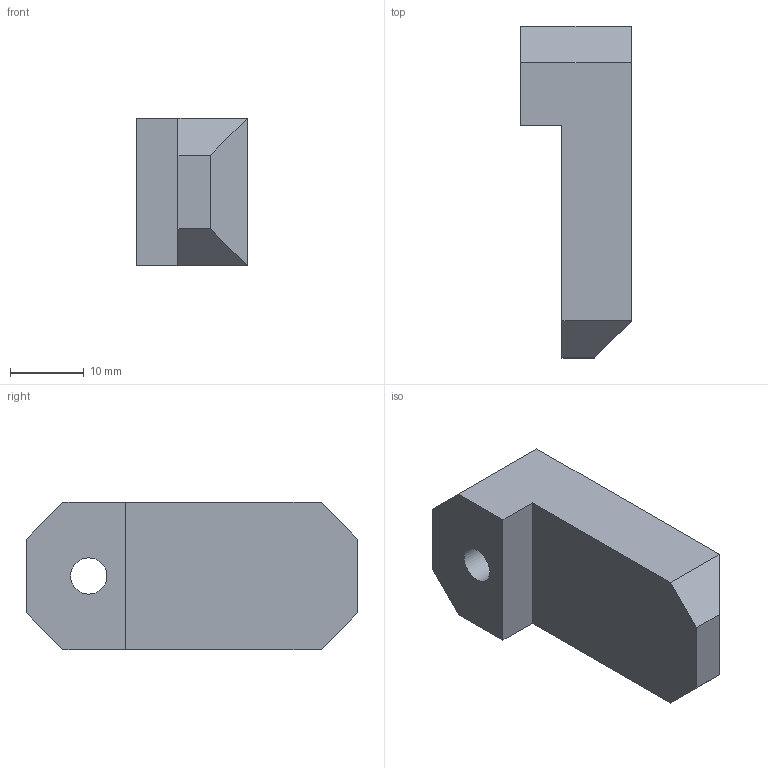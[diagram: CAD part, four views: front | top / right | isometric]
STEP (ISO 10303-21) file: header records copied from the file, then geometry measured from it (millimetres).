
FILE_DESCRIPTION(/* description */ ('BRIDE','CAx-IF Rec.Pracs.---Representation and Presentation of Product Manufacturing Information (PMI)---4.0---2014-10-13'),/* implementation_level */ '2;1');
FILE_NAME(/* name */ 'vv361305-A.stp',/* time_stamp */ '2025-06-06T10:21:02+02:00',/* author */ ('EFR'),/* organization */ (''),/* preprocessor_version */ 'ST-DEVELOPER v20',/* originating_system */ 'Autodesk Inventor 2025',/* authorisation */ '');
FILE_SCHEMA (('AP242_MANAGED_MODEL_BASED_3D_ENGINEERING_MIM_LF { 1 0 10303 442 1 1 4 }'));
Length unit declared in the file: millimetre
Products named in the file (1): VICTOR.V.36.13.05
Bounding box: 15 x 45 x 20 mm (x, y, z)
Volume: 8910.5 mm3; surface area: 3293.7 mm2
Topology: 1 solids, 1 shells, 14 faces, 34 edges, 22 vertices
Faces by surface type: plane 13, cylinder 1
Full cylindrical faces by diameter (mm): 4.917 x1
Entity records: 548 total; most frequent: CARTESIAN_POINT 98, DIRECTION 74, ORIENTED_EDGE 68, EDGE_CURVE 34, LINE 32, VECTOR 32, VERTEX_POINT 22, AXIS2_PLACEMENT_3D 21
